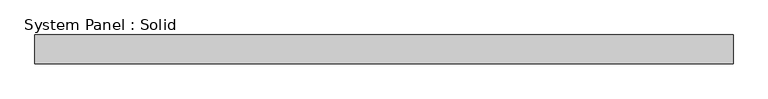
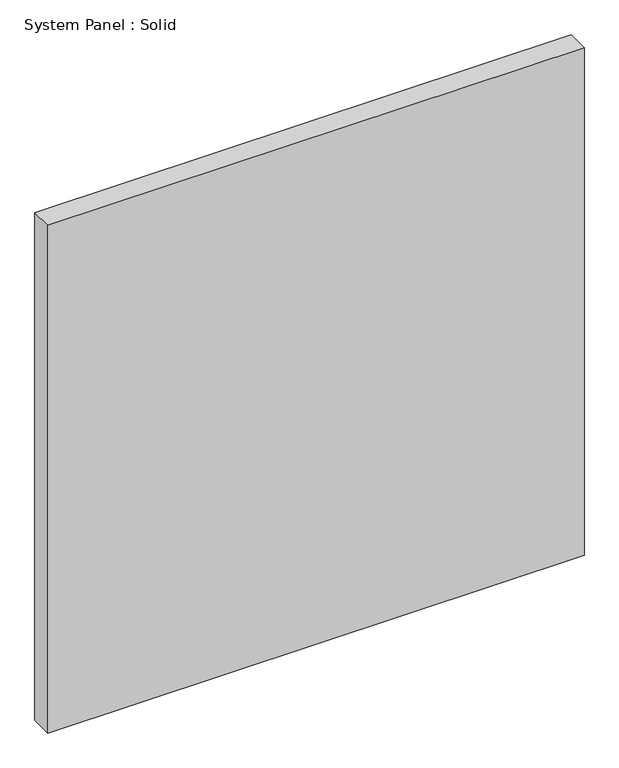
"""IFC4 building model written with IfcOpenShell, lengths in millimetres: plate geometry, System Panel : Solid."""

from ifc_helpers import new_model, si_unit, origin, origin_with_axes, place, context, project, spatial, polyline, outline, extrude, source, transform, mapped, element, save


def system_panel_solid_0812dcd2(model_context):
    return source(origin(), model_context, "Body", "SweptSolid", [
        extrude(outline(polyline([(724.5, -10.5), (-724.5, -10.5), (-724.5, 49.5), (724.5, 49.5), (724.5, -10.5)])), origin_with_axes(), (0.0, 0.0, 1.0), 1448.7250795),
    ])


if __name__ == "__main__":
    model = new_model("IFC4")
    model_context = context("Model", 3, world=origin())
    ifc_project = project(units=[si_unit("LENGTHUNIT", "METRE", prefix="MILLI")], contexts=[model_context])
    site = spatial("IfcSite", under=ifc_project)
    building = spatial("IfcBuilding", under=site)
    placement = place(None, origin())
    system_panel_solid_shape = system_panel_solid_0812dcd2(model_context)
    element("IfcPlate", 1, ObjectType="System Panel : Solid", at=placement, inside=building, context=model_context, shape_type="MappedRepresentation", body=[
        mapped(system_panel_solid_shape, transform((0.0, 0.0, 0.0), x_axis=(1.0, 0.0, 0.0), y_axis=(0.0, 1.0, 0.0), z_axis=(0.0, 0.0, 1.0))),
    ])
    save(model, "model.ifc")
